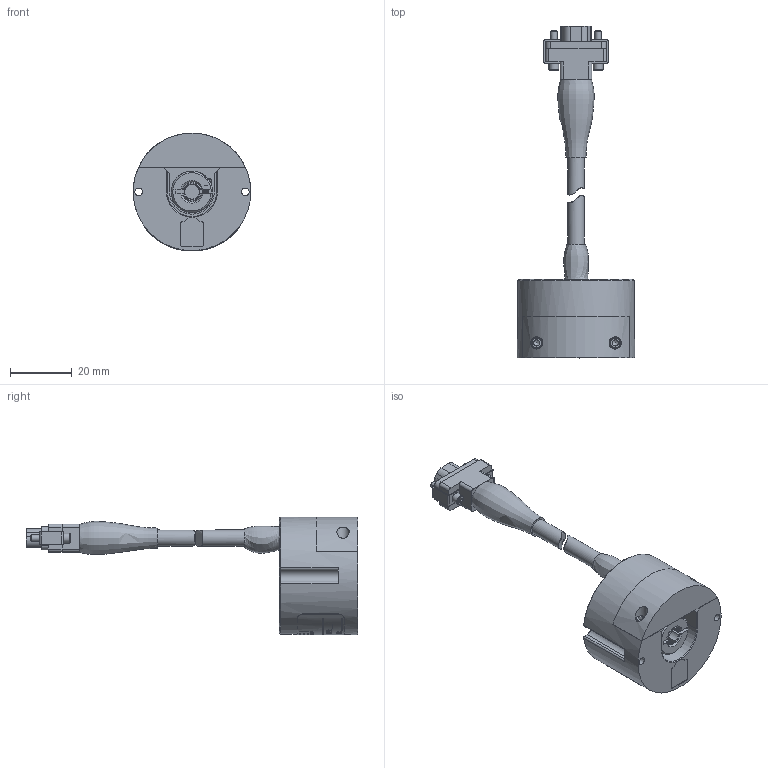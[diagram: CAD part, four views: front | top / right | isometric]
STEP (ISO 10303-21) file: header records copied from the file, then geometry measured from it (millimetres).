
FILE_DESCRIPTION (( 'STEP AP214' ), '1' );
FILE_NAME ('MKA24_188P1M1DxT.STEP', '2020-04-01T13:40:50', ( '' ), ( '' ), 'SwSTEP 2.0', 'SolidWorks 2019', '' );
FILE_SCHEMA (( 'AUTOMOTIVE_DESIGN' ));
Length unit declared in the file: inch
Products named in the file (5): NAS1352_NAS1352C02-4; Front Cover; MKE Readhead Assy, Top Exit; MKA24_188P1M1DxT; MKE Disk Hub Assy, .1875 in
Assembly tree (5 placements, depth 2):
  MKA24_188P1M1DxT
    MKE Readhead Assy, Top Exit
    MKE Disk Hub Assy, .1875 in
    Front Cover
    NAS1352_NAS1352C02-4  x2
Bounding box: 38.08 x 107.46 x 38.2 mm (x, y, z)
Volume: 26857.7 mm3; surface area: 14980.8 mm2
Topology: 6 solids, 6 shells, 2218 faces, 5832 edges, 3814 vertices
Faces by surface type: plane 1387, cylinder 362, bspline 312, cone 154, torus 3
Full cylindrical faces by diameter (mm): 0.564 x9, 0.813 x9, 1.3 x2, 1.58 x2, 1.778 x2, 2.08 x2, 2.1 x4, 2.261 x1, 2.3 x2, 2.36 x2, 2.388 x2, 2.438 x7, 3.18 x2, 3.556 x3, 3.969 x2, 4.763 x1, 5.309 x2, 6.35 x1, 7.62 x1, 13.462 x1, 27.178 x1, 38.1 x1
Entity records: 124693 total; most frequent: CARTESIAN_POINT 46722, ORIENTED_EDGE 10958, DIRECTION 9272, EDGE_CURVE 5479, VERTEX_POINT 3680, VECTOR 3302, LINE 3302, AXIS2_PLACEMENT_3D 2985
